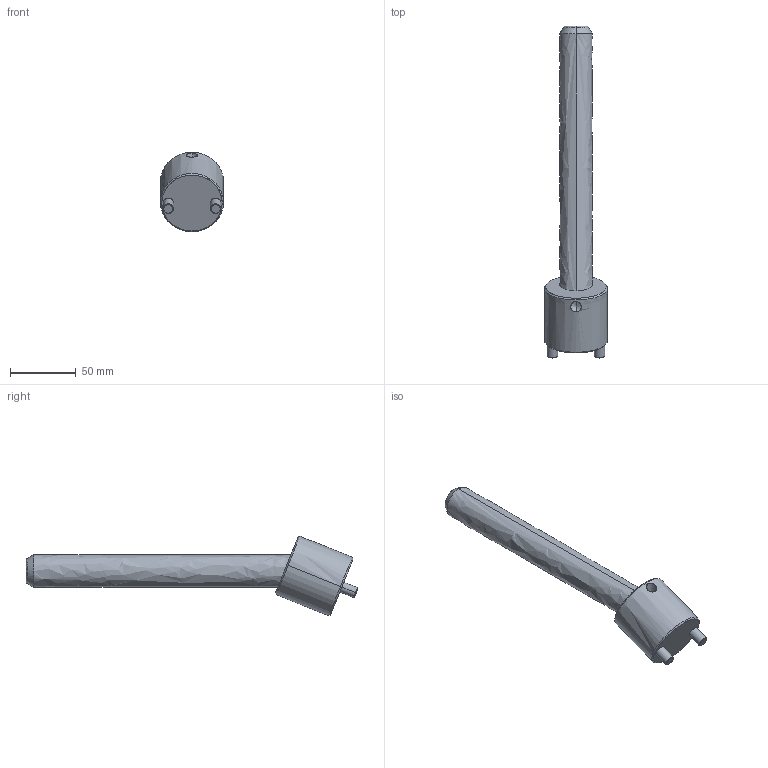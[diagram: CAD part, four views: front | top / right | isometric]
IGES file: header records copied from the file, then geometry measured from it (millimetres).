
Start section: START RECORD GO HERE.
Global section: file name: CI2225200.igs; native system: DASSAULT SYSTEMES CATIA V5 R20 - www.3ds.com; preprocessor: CATIA Version 5 Release 20 ; author: r.borello; organization: CFTORINO; date: 20190624.085912; units: millimetre
Bounding box: 48 x 253.03 x 60.61 mm (x, y, z)
Surface area: 33225 mm2 (no closed solid volume)
Topology: 0 solids, 0 shells, 39 faces, 162 edges, 160 vertices
Faces by surface type: revolution 32, plane 7
